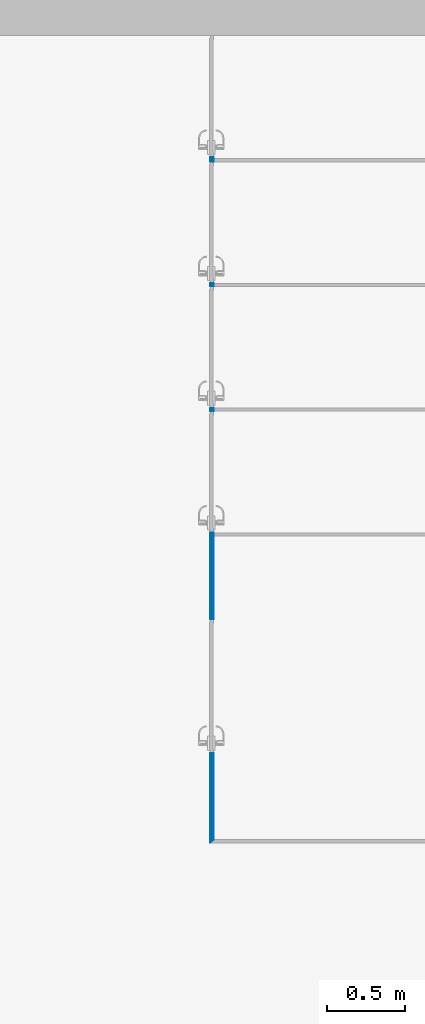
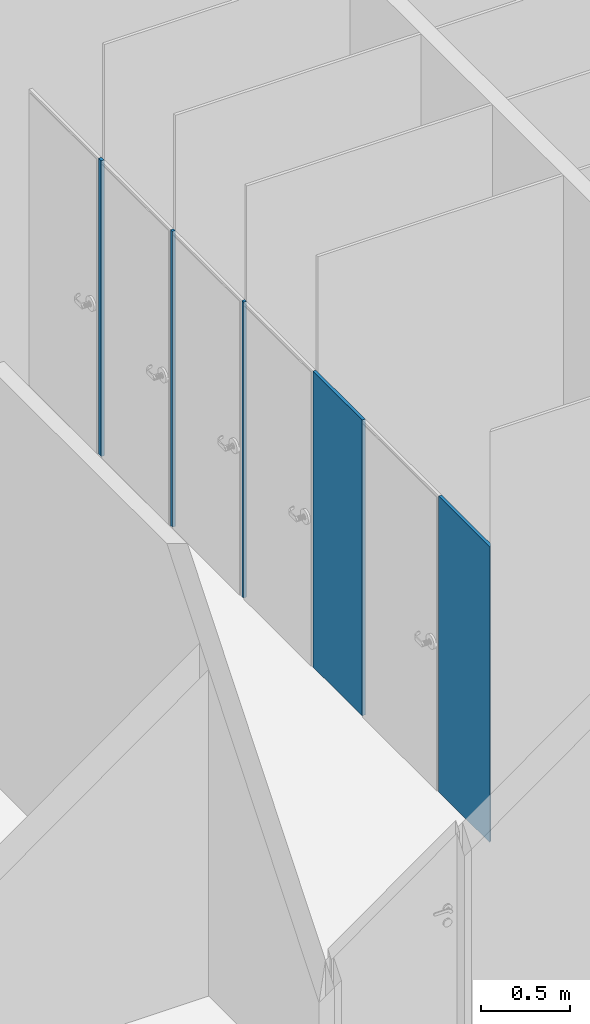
# One storey, part 25 of 45: 1 wall, 5 openings.
"""IFC2X3 building model written with IfcOpenShell, lengths in metres."""

import ifcopenshell
import ifcopenshell.guid

model = None  # the IFC model being written
_history = None  # IfcOwnerHistory: only IFC2X3 demands one
_inside = {}  # id of a spatial element -> (the spatial element, [elements in it])
_under = {}  # id of a project, library or spatial element -> (it, [spatial elements below it])
_declared = {}  # id of a project -> (the project, [libraries it declares])
_typed = {}  # id of a type object -> (the type object, [elements of that type])
_made_of = {}  # id of a material, layer set ... -> (it, [elements and type objects made of it])


def new_model(schema):
    """Start an empty IFC model of exactly this schema.

    Asked for "IFC4X3", IfcOpenShell would pick the latest addendum, in which some entities
    have other attributes; the version numbers below select the first issue.
    IFC2X3 requires an IfcOwnerHistory on every rooted entity: one is made here for all.
    """
    global model, _history
    if schema == "IFC4X3":
        model = ifcopenshell.file(schema_version=(4, 3, 0, 0))
    else:
        model = ifcopenshell.file(schema=schema)
    _inside.clear()
    _under.clear()
    _declared.clear()
    _typed.clear()
    _made_of.clear()
    _history = None
    if model.schema == "IFC2X3":
        org = make("IfcOrganization", Name="unknown")
        user = make(
            "IfcPersonAndOrganization",
            ThePerson=make("IfcPerson", FamilyName="unknown"),
            TheOrganization=org,
        )
        app = make(
            "IfcApplication",
            ApplicationDeveloper=org,
            Version="unknown",
            ApplicationFullName="unknown",
            ApplicationIdentifier="unknown",
        )
        _history = make(
            "IfcOwnerHistory",
            OwningUser=user,
            OwningApplication=app,
            ChangeAction="ADDED",
            CreationDate=0,
        )
    return model


def make(cls, **values):
    """One entity of the class cls with the attributes given. An attribute that is None is left unset."""
    return model.create_entity(
        cls, **{name: value for name, value in values.items() if value is not None}
    )


def entity(cls, *values):
    """Any entity or typed value of the class cls, its attributes in the order of the schema. None: left unset."""
    e = model.create_entity(cls)
    for i, value in enumerate(values):
        if value is not None:
            e[i] = value
    return e


def rooted(cls, **values):
    """An entity with a GlobalId (a new one), such as an element, a storey or a relation."""
    return make(cls, GlobalId=ifcopenshell.guid.new(), OwnerHistory=_history, **values)


def si_unit(unit_type, name, prefix=None):
    """IfcSIUnit, for example si_unit("LENGTHUNIT", "METRE", prefix="MILLI")."""
    return make("IfcSIUnit", UnitType=unit_type, Prefix=prefix, Name=name)


def converted_unit(unit_type, name, factor, base, dimensions=None, offset=None):
    """IfcConversionBasedUnit, such as the inch: factor (a typed value) times the base unit."""
    return make(
        "IfcConversionBasedUnit"
        if offset is None
        else "IfcConversionBasedUnitWithOffset",
        ConversionOffset=offset,
        Dimensions=None
        if dimensions is None
        else entity("IfcDimensionalExponents", *dimensions),
        UnitType=unit_type,
        Name=name,
        ConversionFactor=make(
            "IfcMeasureWithUnit", ValueComponent=factor, UnitComponent=base
        ),
    )


def money_unit(currency):
    """IfcMonetaryUnit."""
    return make("IfcMonetaryUnit", Currency=currency)


def assignment(units):
    """IfcUnitAssignment: the units of a project."""
    return None if units is None else make("IfcUnitAssignment", Units=units)


def point(xyz):
    """IfcCartesianPoint."""
    return None if xyz is None else make("IfcCartesianPoint", Coordinates=xyz)


def direction(xyz):
    """IfcDirection."""
    return None if xyz is None else make("IfcDirection", DirectionRatios=xyz)


def frame(location, z_axis=None, x_axis=None):
    """IfcAxis2Placement3D, a coordinate frame: its origin and axes. An axis left out is left unset."""
    return make(
        "IfcAxis2Placement3D",
        Location=point(location),
        Axis=direction(z_axis),
        RefDirection=direction(x_axis),
    )


def origin_with_axes():
    """The frame at (0, 0, 0) with the z axis (0, 0, 1) and the x axis (1, 0, 0) written out."""
    return frame((0.0, 0.0, 0.0), z_axis=(0.0, 0.0, 1.0), x_axis=(1.0, 0.0, 0.0))


def place(relative_to, where):
    """IfcLocalPlacement: puts the frame where relative to a parent placement (None: the world)."""
    return make(
        "IfcLocalPlacement", PlacementRelTo=relative_to, RelativePlacement=where
    )


def context(
    kind, dimensions, precision=None, world=None, true_north=None, identifier=None
):
    """IfcGeometricRepresentationContext, for example the 3D "Model" context."""
    return make(
        "IfcGeometricRepresentationContext",
        ContextIdentifier=identifier,
        ContextType=kind,
        CoordinateSpaceDimension=dimensions,
        Precision=precision,
        WorldCoordinateSystem=world,
        TrueNorth=true_north,
    )


def subcontext(parent, identifier, kind, view, scale=None):
    """IfcGeometricRepresentationSubContext, for example "Body" below "Model"."""
    return make(
        "IfcGeometricRepresentationSubContext",
        ContextIdentifier=identifier,
        ContextType=kind,
        ParentContext=parent,
        TargetScale=scale,
        TargetView=view,
    )


def project(units=None, contexts=None):
    """IfcProject with its units and contexts."""
    return rooted(
        "IfcProject",
        Name="project",
        RepresentationContexts=contexts,
        UnitsInContext=assignment(units),
    )


def spatial(cls, under=None, at=None, **own):
    """A site, building, storey or space (cls), placed at a placement, below another one or the project."""
    s = rooted(cls, ObjectPlacement=at, **own)
    if under is not None:
        _under.setdefault(under.id(), (under, []))[1].append(s)
    return s


def polyline(points):
    """IfcPolyline through the points."""
    return make("IfcPolyline", Points=[point(p) for p in points])


def outline(outer, holes=None, kind="AREA"):
    """IfcArbitraryClosedProfileDef: a profile drawn as a closed curve; with holes, ...WithVoids."""
    if holes is None:
        return make("IfcArbitraryClosedProfileDef", ProfileType=kind, OuterCurve=outer)
    return make(
        "IfcArbitraryProfileDefWithVoids",
        ProfileType=kind,
        OuterCurve=outer,
        InnerCurves=holes,
    )


def extrude(swept, where, along, depth):
    """IfcExtrudedAreaSolid: the profile swept, set in the frame where, extruded along a direction by depth."""
    return make(
        "IfcExtrudedAreaSolid",
        SweptArea=swept,
        Position=where,
        ExtrudedDirection=direction(along),
        Depth=depth,
    )


def shape(context_of_items, identifier, shape_type, items):
    """IfcShapeRepresentation: the items that make up one representation, for example the "Body"."""
    return make(
        "IfcShapeRepresentation",
        ContextOfItems=context_of_items,
        RepresentationIdentifier=identifier,
        RepresentationType=shape_type,
        Items=items,
    )


def material(Name=None, Category=None):
    """IfcMaterial."""
    return make("IfcMaterial", Name=Name, Category=Category)


def layer(
    of_material, thickness, ventilated=None, Name=None, Category=None, Priority=None
):
    """IfcMaterialLayer: one layer of a wall or slab, of a material (None: an air gap)."""
    return make(
        "IfcMaterialLayer",
        Material=of_material,
        LayerThickness=thickness,
        IsVentilated=ventilated,
        Name=Name,
        Category=Category,
        Priority=Priority,
    )


def layer_set(layers, Name=None):
    """IfcMaterialLayerSet."""
    return make("IfcMaterialLayerSet", MaterialLayers=layers, LayerSetName=Name)


def layer_usage(for_layer_set, set_direction, sense, offset, extent=None):
    """IfcMaterialLayerSetUsage: how a layer set lies in its element."""
    return make(
        "IfcMaterialLayerSetUsage",
        ForLayerSet=for_layer_set,
        LayerSetDirection=set_direction,
        DirectionSense=sense,
        OffsetFromReferenceLine=offset,
        ReferenceExtent=extent,
    )


def made_of(thing, what):
    """Note that an element or type object is made of a material, layer set ...; save() writes the relation."""
    if what is not None:
        _made_of.setdefault(what.id(), (what, []))[1].append(thing)
    return thing


def type_object(cls, material=None, **own):
    """A type object (cls), such as IfcWallType, which elements share."""
    return made_of(rooted(cls, **own), material)


def element(
    cls,
    number,
    at=None,
    inside=None,
    cuts=None,
    type_object=None,
    material=None,
    context=None,
    identifier="Body",
    shape_type=None,
    held_by="IfcProductDefinitionShape",
    body=None,
    shapes=None,
    **own,
):
    """One element of the class cls, such as IfcWall. Its Tag is "e" and its number.

    at: its placement. inside: the storey or other place that contains it. cuts: it is an
    opening in that element (IfcRelVoidsElement). A single representation is given by context,
    identifier, shape_type and body (its items); several are given by shapes. held_by: the class
    of the entity that holds the representations. save() writes the other relations.
    """
    e = rooted(cls, Tag="e%d" % number, ObjectPlacement=at, **own)
    if body is not None:
        shapes = [shape(context, identifier, shape_type, body)]
    if shapes is not None:
        e.Representation = make(held_by, Representations=shapes)
    if inside is not None:
        _inside.setdefault(inside.id(), (inside, []))[1].append(e)
    if cuts is not None:
        rooted(
            "IfcRelVoidsElement", RelatingBuildingElement=cuts, RelatedOpeningElement=e
        )
    if type_object is not None:
        _typed.setdefault(type_object.id(), (type_object, []))[1].append(e)
    return made_of(e, material)


def aggregate(whole, parts):
    """IfcRelAggregates: a whole, such as a stair, and the parts it consists of."""
    return rooted("IfcRelAggregates", RelatingObject=whole, RelatedObjects=parts)


def save(model, path):
    """Write the relations noted so far, then the file.

    IfcRelAggregates (storeys below a building ...), IfcRelContainedInSpatialStructure (elements
    in a storey), IfcRelDefinesByType, IfcRelAssociatesMaterial and IfcRelDeclares: one each for
    every whole, place, type object, material and project.
    """
    for whole, parts in _under.values():
        aggregate(whole, parts)
    for where, things in _inside.values():
        rooted(
            "IfcRelContainedInSpatialStructure",
            RelatedElements=things,
            RelatingStructure=where,
        )
    for kind, things in _typed.values():
        rooted("IfcRelDefinesByType", RelatedObjects=things, RelatingType=kind)
    for what, things in _made_of.values():
        rooted("IfcRelAssociatesMaterial", RelatedObjects=things, RelatingMaterial=what)
    for by, libraries in _declared.values():
        rooted("IfcRelDeclares", RelatingContext=by, RelatedDefinitions=libraries)
    model.write(path)


model = new_model("IFC2X3")

# Units and contexts
model_context = context("Model", 3, precision=1e-05, world=origin_with_axes(), true_north=direction((0.0, 1.0)))
body_context = subcontext(model_context, "Body", "Model", "MODEL_VIEW")
ifc_project = project(units=[si_unit("LENGTHUNIT", "METRE"), si_unit("AREAUNIT", "SQUARE_METRE"), si_unit("VOLUMEUNIT", "CUBIC_METRE"), converted_unit("PLANEANGLEUNIT", "DEGREE", entity("IfcPlaneAngleMeasure", 0.0174532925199), si_unit("PLANEANGLEUNIT", "RADIAN"), dimensions=[0, 0, 0, 0, 0, 0, 0]), si_unit("SOLIDANGLEUNIT", "STERADIAN"), money_unit("EUR"), converted_unit("TIMEUNIT", "Year", entity("IfcTimeMeasure", 31556926.0), si_unit("TIMEUNIT", "SECOND"), dimensions=[0, 0, 0, 0, 0, 0, 0]), si_unit("MASSUNIT", "GRAM"), si_unit("THERMODYNAMICTEMPERATUREUNIT", "DEGREE_CELSIUS"), si_unit("LUMINOUSINTENSITYUNIT", "LUMEN")], contexts=[model_context])

# Site, building, storey
site_placement = place(None, origin_with_axes())
site = spatial("IfcSite", under=ifc_project, at=site_placement, Name="Site", CompositionType="ELEMENT")
building_placement = place(site_placement, origin_with_axes())
building = spatial("IfcBuilding", under=site, at=building_placement, Name="Bâtiment", CompositionType="ELEMENT")
storey_placement = place(building_placement, origin_with_axes())
storey = spatial("IfcBuildingStorey", under=building, at=storey_placement, Name="NIVEAU BAS GYMNASE", CompositionType="ELEMENT", Elevation=0.0)

# Wall, openings
ifc_material = material(Name="Hachure solide 3821565075")
ifc_layer = layer(ifc_material, 0.02, ventilated="UNKNOWN")
ifc_layer_set = layer_set([ifc_layer], Name="Hachure solide 3821565075 0.02")
ifc_layer_usage = layer_usage(ifc_layer_set, "AXIS2", "POSITIVE", 0.0)
wall_type = type_object("IfcWallType", Name="Hachure solide 3821565075 20", PredefinedType="NOTDEFINED")
wall_placement = place(storey_placement, frame((57.7737025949, 16.338956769, 0.0), z_axis=(0.0, 0.0, 1.0), x_axis=(0.0, 1.0, 0.0)))
wall = element("IfcWallStandardCase", 1, at=wall_placement, inside=storey, type_object=wall_type, material=ifc_layer_usage, Name="Mur-022", context=body_context, shape_type="SweptSolid", body=[
    extrude(outline(polyline([(0.0, 0.0), (5.15985894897, 0.0), (5.15985894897, 0.02), (-0.02, 0.02), (0.0, 0.0)])), origin_with_axes(), (0.0, 0.0, 1.0), 2.03),
])
opening_1_placement = place(wall_placement, frame((0.986187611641, 0.0, -0.02), z_axis=(0.0, 0.0, 1.0), x_axis=(1.0, 0.0, 0.0)))
element("IfcOpeningElement", 2, at=opening_1_placement, cuts=wall, Name="Por-018", context=body_context, shape_type="SweptSolid", body=[
    extrude(outline(polyline([(-0.43, 0.0), (-0.43, -2.05), (0.43, -2.05), (0.43, 0.0), (-0.43, 0.0)])), frame((0.0, -0.02, 0.0), z_axis=(0.0, 1.0, 0.0), x_axis=(1.0, 0.0, 0.0)), (0.0, 0.0, 1.0), 0.04),
])
opening_2_placement = place(wall_placement, frame((2.35973397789, 0.0, -0.02), z_axis=(0.0, 0.0, 1.0), x_axis=(1.0, 0.0, 0.0)))
element("IfcOpeningElement", 3, at=opening_2_placement, cuts=wall, Name="Por-018", context=body_context, shape_type="SweptSolid", body=[
    extrude(outline(polyline([(-0.39, 0.0), (-0.39, -2.05), (0.39, -2.05), (0.39, 0.0), (-0.39, 0.0)])), frame((0.0, -0.02, 0.0), z_axis=(0.0, 1.0, 0.0), x_axis=(1.0, 0.0, 0.0)), (0.0, 0.0, 1.0), 0.04),
])
opening_3_placement = place(wall_placement, frame((3.15985894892, 0.0, -0.02), z_axis=(0.0, 0.0, 1.0), x_axis=(1.0, 0.0, 0.0)))
element("IfcOpeningElement", 4, at=opening_3_placement, cuts=wall, Name="Por-019", context=body_context, shape_type="SweptSolid", body=[
    extrude(outline(polyline([(-0.39, 0.0), (-0.39, -2.05), (0.39, -2.05), (0.39, 0.0), (-0.39, 0.0)])), frame((0.0, -0.02, 0.0), z_axis=(0.0, 1.0, 0.0), x_axis=(1.0, 0.0, 0.0)), (0.0, 0.0, 1.0), 0.04),
])
opening_4_placement = place(wall_placement, frame((3.95985894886, 0.0, -0.02), z_axis=(0.0, 0.0, 1.0), x_axis=(1.0, 0.0, 0.0)))
element("IfcOpeningElement", 5, at=opening_4_placement, cuts=wall, Name="Por-022", context=body_context, shape_type="SweptSolid", body=[
    extrude(outline(polyline([(-0.39, 0.0), (-0.39, -2.05), (0.39, -2.05), (0.39, 0.0), (-0.39, 0.0)])), frame((0.0, -0.02, 0.0), z_axis=(0.0, 1.0, 0.0), x_axis=(1.0, 0.0, 0.0)), (0.0, 0.0, 1.0), 0.04),
])
opening_5_placement = place(wall_placement, frame((4.76985894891, 0.0, -0.02), z_axis=(0.0, 0.0, 1.0), x_axis=(1.0, 0.0, 0.0)))
element("IfcOpeningElement", 6, at=opening_5_placement, cuts=wall, Name="Por-023", context=body_context, shape_type="SweptSolid", body=[
    extrude(outline(polyline([(-0.39, 0.0), (-0.39, -2.05), (0.39, -2.05), (0.39, 0.0), (-0.39, 0.0)])), frame((0.0, -0.02, 0.0), z_axis=(0.0, 1.0, 0.0), x_axis=(1.0, 0.0, 0.0)), (0.0, 0.0, 1.0), 0.04),
])

save(model, "model.ifc")
